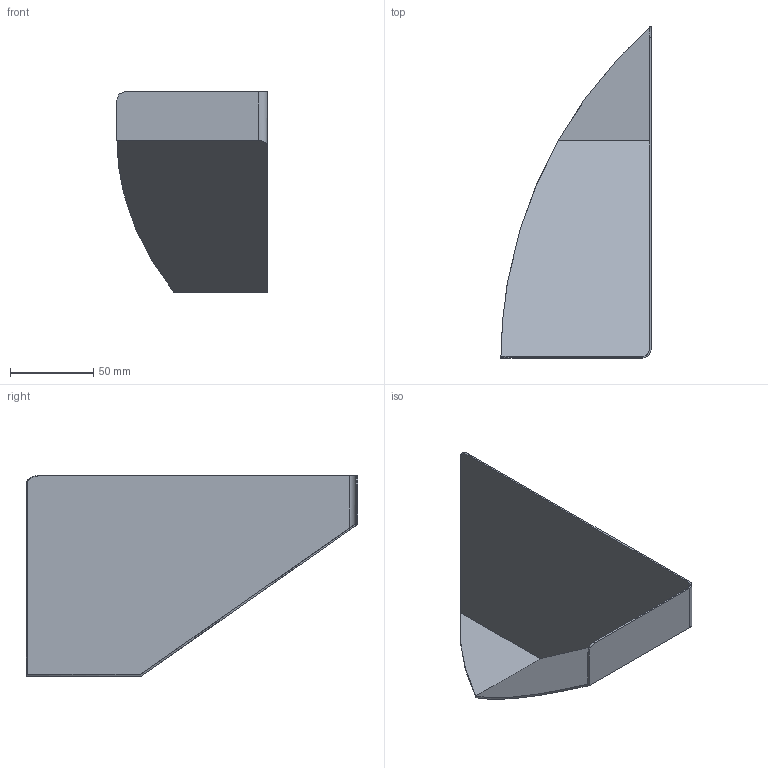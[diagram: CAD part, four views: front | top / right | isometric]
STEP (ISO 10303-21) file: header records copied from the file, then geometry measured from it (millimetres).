
FILE_DESCRIPTION (( 'STEP AP203' ), '1' );
FILE_NAME ('YWSD-2026-03-01-01-01=004 裔啣.STEP', '2026-07-24T07:30:01', ( 'Windows 蚚誧' ), ( '' ), 'SwSTEP 2.0', 'SolidWorks 2024', '' );
FILE_SCHEMA (( 'CONFIG_CONTROL_DESIGN' ));
Length unit declared in the file: millimetre
Products named in the file (1): YWSD-2026-03-01-01-01=004 盖板
Bounding box: 90 x 199 x 120 mm (x, y, z)
Volume: 34794.2 mm3; surface area: 70312.1 mm2
Topology: 1 solids, 1 shells, 14 faces, 36 edges, 24 vertices
Faces by surface type: plane 9, cylinder 3, torus 2
Entity records: 557 total; most frequent: CARTESIAN_POINT 144, ORIENTED_EDGE 72, DIRECTION 68, EDGE_CURVE 36, AXIS2_PLACEMENT_3D 24, VERTEX_POINT 24, LINE 20, VECTOR 20
